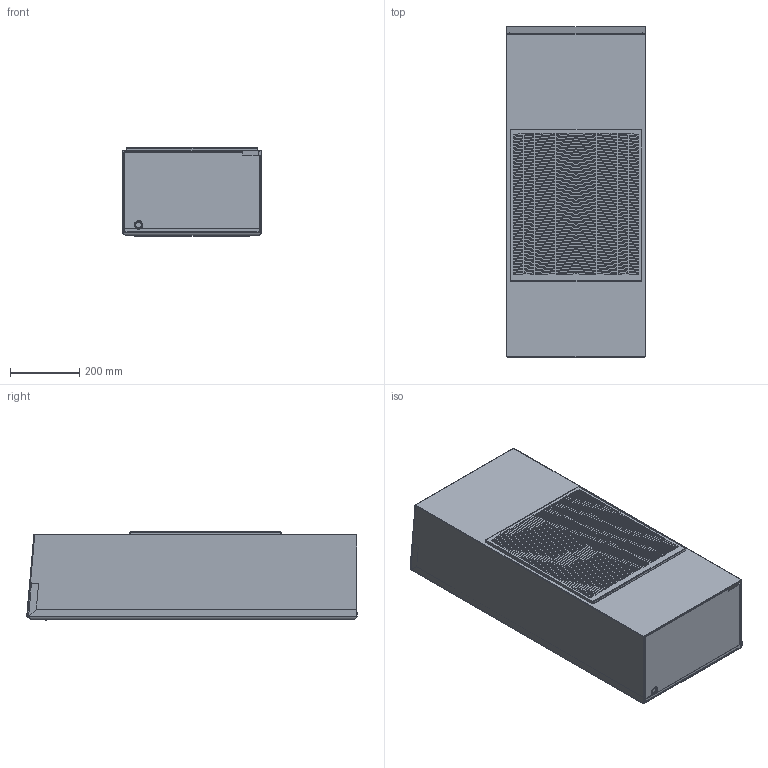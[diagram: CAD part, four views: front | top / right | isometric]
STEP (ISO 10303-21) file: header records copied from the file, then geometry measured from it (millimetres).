
FILE_DESCRIPTION(/* description */ (''),/* implementation_level */ '2;1');
FILE_NAME(/* name */ 'CCU15A231(402)WNOyX',/* time_stamp */ '2024-06-13T11:06:32+02:00',/* author */ (''),/* organization */ (''),/* preprocessor_version */ 'ST-DEVELOPER v16.5',/* originating_system */ 'Rhino 7.37',/* authorisation */ '');
FILE_SCHEMA (('AUTOMOTIVE_DESIGN'));
Length unit declared in the file: millimetre
Products named in the file (1): Document
Bounding box: 403 x 952.9 x 256 mm (x, y, z)
Volume: 1292520.7 mm3; surface area: 3189736.3 mm2
Topology: 3 solids, 4 shells, 2028 faces, 5787 edges, 3787 vertices
Faces by surface type: plane 1793, cylinder 188, bspline 47
Entity records: 67443 total; most frequent: CARTESIAN_POINT 27122, ORIENTED_EDGE 11557, EDGE_CURVE 5786, B_SPLINE_CURVE_WITH_KNOTS 5656, VERTEX_POINT 3787, EDGE_LOOP 2748, ADVANCED_FACE 2028, FACE_OUTER_BOUND 2028
